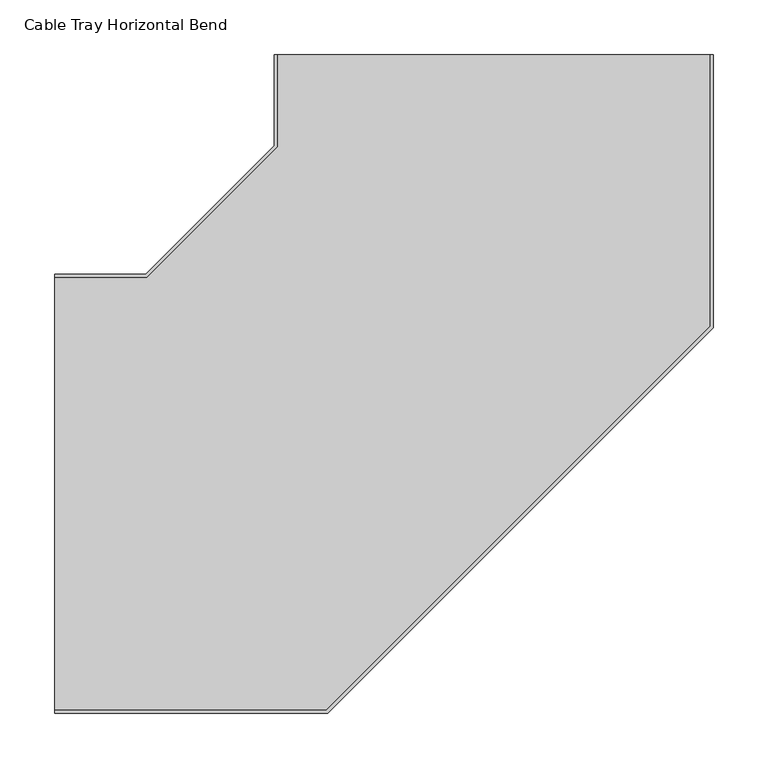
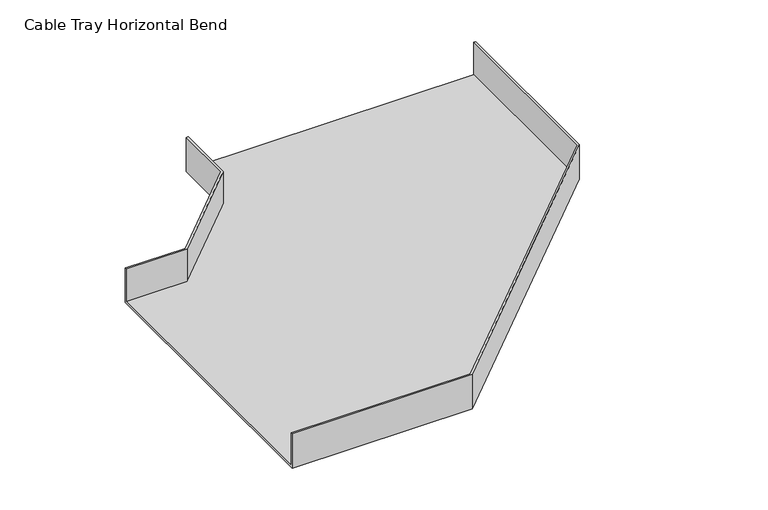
"""IFC4 building model written with IfcOpenShell, lengths in millimetres: cable carrier fitting geometry, Cable Tray Horizontal Bend : ELEC_SUB_CT_N2402."""

import ifcopenshell
import ifcopenshell.guid

model = None  # the IFC model being written
_history = None  # IfcOwnerHistory: only IFC2X3 demands one
_inside = {}  # id of a spatial element -> (the spatial element, [elements in it])
_under = {}  # id of a project, library or spatial element -> (it, [spatial elements below it])
_declared = {}  # id of a project -> (the project, [libraries it declares])
_typed = {}  # id of a type object -> (the type object, [elements of that type])
_made_of = {}  # id of a material, layer set ... -> (it, [elements and type objects made of it])


def new_model(schema):
    """Start an empty IFC model of exactly this schema.

    Asked for "IFC4X3", IfcOpenShell would pick the latest addendum, in which some entities
    have other attributes; the version numbers below select the first issue.
    IFC2X3 requires an IfcOwnerHistory on every rooted entity: one is made here for all.
    """
    global model, _history
    if schema == "IFC4X3":
        model = ifcopenshell.file(schema_version=(4, 3, 0, 0))
    else:
        model = ifcopenshell.file(schema=schema)
    _inside.clear()
    _under.clear()
    _declared.clear()
    _typed.clear()
    _made_of.clear()
    _history = None
    if model.schema == "IFC2X3":
        org = make("IfcOrganization", Name="unknown")
        user = make(
            "IfcPersonAndOrganization",
            ThePerson=make("IfcPerson", FamilyName="unknown"),
            TheOrganization=org,
        )
        app = make(
            "IfcApplication",
            ApplicationDeveloper=org,
            Version="unknown",
            ApplicationFullName="unknown",
            ApplicationIdentifier="unknown",
        )
        _history = make(
            "IfcOwnerHistory",
            OwningUser=user,
            OwningApplication=app,
            ChangeAction="ADDED",
            CreationDate=0,
        )
    return model


def make(cls, **values):
    """One entity of the class cls with the attributes given. An attribute that is None is left unset."""
    return model.create_entity(
        cls, **{name: value for name, value in values.items() if value is not None}
    )


def rooted(cls, **values):
    """An entity with a GlobalId (a new one), such as an element, a storey or a relation."""
    return make(cls, GlobalId=ifcopenshell.guid.new(), OwnerHistory=_history, **values)


def si_unit(unit_type, name, prefix=None):
    """IfcSIUnit, for example si_unit("LENGTHUNIT", "METRE", prefix="MILLI")."""
    return make("IfcSIUnit", UnitType=unit_type, Prefix=prefix, Name=name)


def assignment(units):
    """IfcUnitAssignment: the units of a project."""
    return None if units is None else make("IfcUnitAssignment", Units=units)


def point(xyz):
    """IfcCartesianPoint."""
    return None if xyz is None else make("IfcCartesianPoint", Coordinates=xyz)


def direction(xyz):
    """IfcDirection."""
    return None if xyz is None else make("IfcDirection", DirectionRatios=xyz)


def frame(location, z_axis=None, x_axis=None):
    """IfcAxis2Placement3D, a coordinate frame: its origin and axes. An axis left out is left unset."""
    return make(
        "IfcAxis2Placement3D",
        Location=point(location),
        Axis=direction(z_axis),
        RefDirection=direction(x_axis),
    )


def origin():
    """The frame at (0, 0, 0) with its axes left unset."""
    return frame((0.0, 0.0, 0.0))


def place(relative_to, where):
    """IfcLocalPlacement: puts the frame where relative to a parent placement (None: the world)."""
    return make(
        "IfcLocalPlacement", PlacementRelTo=relative_to, RelativePlacement=where
    )


def context(
    kind, dimensions, precision=None, world=None, true_north=None, identifier=None
):
    """IfcGeometricRepresentationContext, for example the 3D "Model" context."""
    return make(
        "IfcGeometricRepresentationContext",
        ContextIdentifier=identifier,
        ContextType=kind,
        CoordinateSpaceDimension=dimensions,
        Precision=precision,
        WorldCoordinateSystem=world,
        TrueNorth=true_north,
    )


def project(units=None, contexts=None):
    """IfcProject with its units and contexts."""
    return rooted(
        "IfcProject",
        Name="project",
        RepresentationContexts=contexts,
        UnitsInContext=assignment(units),
    )


def spatial(cls, under=None, at=None, **own):
    """A site, building, storey or space (cls), placed at a placement, below another one or the project."""
    s = rooted(cls, ObjectPlacement=at, **own)
    if under is not None:
        _under.setdefault(under.id(), (under, []))[1].append(s)
    return s


def faces_of(points, faces, orient=None, outer=None):
    """IfcFace entities. A face is a list of loops; a loop is a list of indices into points, from 0.

    orient and outer hold one flag for each loop. By default every Orientation is true, the
    first loop of a face is its IfcFaceOuterBound and the others are IfcFaceBound.
    """
    made = []
    for i, loops in enumerate(faces):
        bounds = []
        for j, loop in enumerate(loops):
            is_outer = j == 0 if outer is None else outer[i][j]
            bounds.append(
                make(
                    "IfcFaceOuterBound" if is_outer else "IfcFaceBound",
                    Bound=make("IfcPolyLoop", Polygon=[points[k] for k in loop]),
                    Orientation=True if orient is None else orient[i][j],
                )
            )
        made.append(make("IfcFace", Bounds=bounds))
    return made


def faceted_brep(points, faces, orient=None, outer=None, voids=None):
    """IfcFacetedBrep: a solid bounded by flat faces; with voids (closed shells), ...WithVoids."""
    shared = [point(p) for p in points]
    hull = make("IfcClosedShell", CfsFaces=faces_of(shared, faces, orient, outer))
    if voids is None:
        return make("IfcFacetedBrep", Outer=hull)
    return make(
        "IfcFacetedBrepWithVoids",
        Outer=hull,
        Voids=[
            make(cls, CfsFaces=faces_of(shared, fs, o, b)) for cls, fs, o, b in voids
        ],
    )


def shape(context_of_items, identifier, shape_type, items):
    """IfcShapeRepresentation: the items that make up one representation, for example the "Body"."""
    return make(
        "IfcShapeRepresentation",
        ContextOfItems=context_of_items,
        RepresentationIdentifier=identifier,
        RepresentationType=shape_type,
        Items=items,
    )


def source(mapping_origin, context_of_items, identifier, shape_type, items):
    """IfcRepresentationMap: a shape defined once, which mapped items show again and again."""
    return make(
        "IfcRepresentationMap",
        MappingOrigin=mapping_origin,
        MappedRepresentation=shape(context_of_items, identifier, shape_type, items),
    )


def transform(
    local_origin,
    x_axis=None,
    y_axis=None,
    z_axis=None,
    scale=None,
    scale2=None,
    scale3=None,
    uniform=True,
):
    """IfcCartesianTransformationOperator3D, or its non-uniform kind. x_axis, y_axis, z_axis: its Axis1, 2, 3."""
    if uniform:
        return make(
            "IfcCartesianTransformationOperator3D",
            Axis1=direction(x_axis),
            Axis2=direction(y_axis),
            LocalOrigin=point(local_origin),
            Scale=scale,
            Axis3=direction(z_axis),
        )
    return make(
        "IfcCartesianTransformationOperator3DnonUniform",
        Axis1=direction(x_axis),
        Axis2=direction(y_axis),
        LocalOrigin=point(local_origin),
        Scale=scale,
        Axis3=direction(z_axis),
        Scale2=scale2,
        Scale3=scale3,
    )


def mapped(mapping_source, mapping_target):
    """IfcMappedItem: shows the shape of a source again, moved by a transform."""
    return make(
        "IfcMappedItem", MappingSource=mapping_source, MappingTarget=mapping_target
    )


def made_of(thing, what):
    """Note that an element or type object is made of a material, layer set ...; save() writes the relation."""
    if what is not None:
        _made_of.setdefault(what.id(), (what, []))[1].append(thing)
    return thing


def element(
    cls,
    number,
    at=None,
    inside=None,
    cuts=None,
    type_object=None,
    material=None,
    context=None,
    identifier="Body",
    shape_type=None,
    held_by="IfcProductDefinitionShape",
    body=None,
    shapes=None,
    **own,
):
    """One element of the class cls, such as IfcWall. Its Tag is "e" and its number.

    at: its placement. inside: the storey or other place that contains it. cuts: it is an
    opening in that element (IfcRelVoidsElement). A single representation is given by context,
    identifier, shape_type and body (its items); several are given by shapes. held_by: the class
    of the entity that holds the representations. save() writes the other relations.
    """
    e = rooted(cls, Tag="e%d" % number, ObjectPlacement=at, **own)
    if body is not None:
        shapes = [shape(context, identifier, shape_type, body)]
    if shapes is not None:
        e.Representation = make(held_by, Representations=shapes)
    if inside is not None:
        _inside.setdefault(inside.id(), (inside, []))[1].append(e)
    if cuts is not None:
        rooted(
            "IfcRelVoidsElement", RelatingBuildingElement=cuts, RelatedOpeningElement=e
        )
    if type_object is not None:
        _typed.setdefault(type_object.id(), (type_object, []))[1].append(e)
    return made_of(e, material)


def aggregate(whole, parts):
    """IfcRelAggregates: a whole, such as a stair, and the parts it consists of."""
    return rooted("IfcRelAggregates", RelatingObject=whole, RelatedObjects=parts)


def save(model, path):
    """Write the relations noted so far, then the file.

    IfcRelAggregates (storeys below a building ...), IfcRelContainedInSpatialStructure (elements
    in a storey), IfcRelDefinesByType, IfcRelAssociatesMaterial and IfcRelDeclares: one each for
    every whole, place, type object, material and project.
    """
    for whole, parts in _under.values():
        aggregate(whole, parts)
    for where, things in _inside.values():
        rooted(
            "IfcRelContainedInSpatialStructure",
            RelatedElements=things,
            RelatingStructure=where,
        )
    for kind, things in _typed.values():
        rooted("IfcRelDefinesByType", RelatedObjects=things, RelatingType=kind)
    for what, things in _made_of.values():
        rooted("IfcRelAssociatesMaterial", RelatedObjects=things, RelatingMaterial=what)
    for by, libraries in _declared.values():
        rooted("IfcRelDeclares", RelatingContext=by, RelatedDefinitions=libraries)
    model.write(path)


def cable_tray_horizontal_bend_c1d5b7c4(model_context):
    return source(origin(), model_context, "Body", "Brep", [
        faceted_brep([(-400.0, -200.0, -25.0), (-400.0, -200.0, 25.0), (-400.0, -197.46, 25.0), (-400.0, -197.46, -22.46), (-400.0, 197.46, -22.46), (-400.0, 197.46, 25.0), (-400.0, 200.0, 25.0), (-400.0, 200.0, -25.0), (200.0, 400.0, -25.0), (-200.0, 400.0, -25.0), (-200.0, 400.0, 25.0), (-197.46, 400.0, 25.0), (-197.46, 400.0, -22.46), (197.46, 400.0, -22.46), (197.46, 400.0, 25.0), (200.0, 400.0, 25.0), (-151.4718626, -200.0, -25.0), (-151.4718626, -200.0, 25.0), (200.0, 151.4718626, 25.0), (197.46, 152.523965, 25.0), (-152.523965, -197.46, 25.0), (-152.523965, -197.46, -22.46), (197.46, 152.523965, -22.46), (-197.46, 316.1051851, -22.46), (-316.1051851, 197.46, -22.46), (-316.1051851, 197.46, 25.0), (-197.46, 316.1051851, 25.0), (-200.0, 317.1572875, 25.0), (-317.1572875, 200.0, 25.0), (-317.1572875, 200.0, -25.0), (-200.0, 317.1572875, -25.0), (200.0, 151.4718626, -25.0)], [[[0, 1, 2, 3, 4, 5, 6, 7]], [[8, 9, 10, 11, 12, 13, 14, 15]], [[1, 0, 16, 17]], [[2, 1, 17, 18, 15, 14, 19, 20]], [[3, 2, 20, 21]], [[4, 3, 21, 22, 13, 12, 23, 24]], [[5, 4, 24, 25]], [[6, 5, 25, 26, 11, 10, 27, 28]], [[7, 6, 28, 29]], [[0, 7, 29, 30, 9, 8, 31, 16]], [[17, 16, 31, 18]], [[21, 20, 19, 22]], [[25, 24, 23, 26]], [[29, 28, 27, 30]], [[18, 31, 8, 15]], [[22, 19, 14, 13]], [[26, 23, 12, 11]], [[30, 27, 10, 9]]]),
    ])


if __name__ == "__main__":
    model = new_model("IFC4")
    model_context = context("Model", 3, world=origin())
    ifc_project = project(units=[si_unit("LENGTHUNIT", "METRE", prefix="MILLI")], contexts=[model_context])
    site = spatial("IfcSite", under=ifc_project)
    building = spatial("IfcBuilding", under=site)
    placement = place(None, origin())
    cable_tray_horizontal_bend_shape = cable_tray_horizontal_bend_c1d5b7c4(model_context)
    element("IfcCableCarrierFitting", 1, ObjectType="Cable Tray Horizontal Bend : ELEC_SUB_CT_N2402", at=placement, inside=building, context=model_context, shape_type="MappedRepresentation", body=[
        mapped(cable_tray_horizontal_bend_shape, transform((0.0, 0.0, 0.0), x_axis=(1.0, 0.0, 0.0), y_axis=(0.0, 1.0, 0.0), z_axis=(0.0, 0.0, 1.0))),
    ])
    save(model, "model.ifc")
